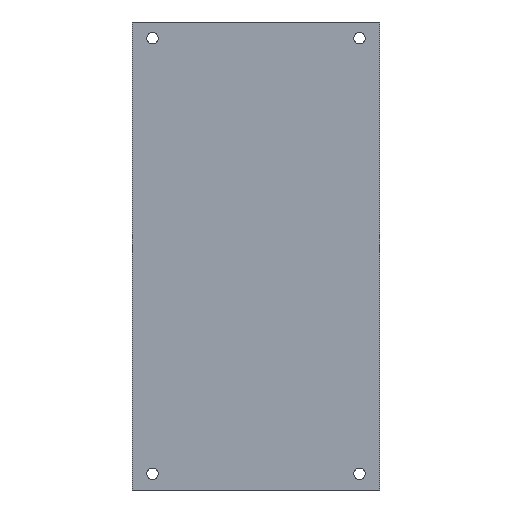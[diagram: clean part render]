
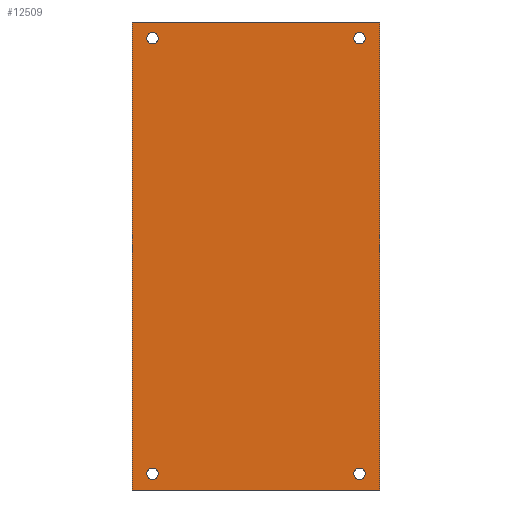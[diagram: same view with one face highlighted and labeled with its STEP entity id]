
A CAD part, front view. The second image highlights one B-rep face of the part: STEP entity #12509.
In plain terms, the highlighted planar face has unit normal (0, -1, 0).
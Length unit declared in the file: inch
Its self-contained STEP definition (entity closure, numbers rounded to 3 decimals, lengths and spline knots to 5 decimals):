
#456=LINE('',#18673,#1605);
#458=LINE('',#18677,#1607);
#461=LINE('',#18682,#1610);
#465=LINE('',#18712,#1614);
#1605=VECTOR('',#14924,0.3937);
#1607=VECTOR('',#14928,0.3937);
#1610=VECTOR('',#14933,0.3937);
#1614=VECTOR('',#14973,0.3937);
#2552=FACE_BOUND('',#3820,.T.);
#2553=FACE_BOUND('',#3821,.T.);
#2554=FACE_BOUND('',#3822,.T.);
#2555=FACE_BOUND('',#3823,.T.);
#3019=FACE_OUTER_BOUND('',#3819,.T.);
#3819=EDGE_LOOP('',(#8423,#8424,#8425,#8426));
#3820=EDGE_LOOP('',(#8427));
#3821=EDGE_LOOP('',(#8428));
#3822=EDGE_LOOP('',(#8429));
#3823=EDGE_LOOP('',(#8430));
#4782=CIRCLE('',#13328,0.08465);
#4784=CIRCLE('',#13331,0.08465);
#4786=CIRCLE('',#13334,0.08465);
#4788=CIRCLE('',#13337,0.08465);
#5422=VERTEX_POINT('',#18670);
#5423=VERTEX_POINT('',#18672);
#5424=VERTEX_POINT('',#18676);
#5425=VERTEX_POINT('',#18681);
#5426=VERTEX_POINT('',#18689);
#5428=VERTEX_POINT('',#18694);
#5430=VERTEX_POINT('',#18699);
#5432=VERTEX_POINT('',#18704);
#6596=EDGE_CURVE('',#5423,#5422,#456,.T.);
#6598=EDGE_CURVE('',#5424,#5423,#458,.T.);
#6601=EDGE_CURVE('',#5425,#5424,#461,.T.);
#6603=EDGE_CURVE('',#5426,#5426,#4782,.T.);
#6605=EDGE_CURVE('',#5428,#5428,#4784,.T.);
#6607=EDGE_CURVE('',#5430,#5430,#4786,.T.);
#6609=EDGE_CURVE('',#5432,#5432,#4788,.T.);
#6613=EDGE_CURVE('',#5422,#5425,#465,.T.);
#8423=ORIENTED_EDGE('',*,*,#6613,.T.);
#8424=ORIENTED_EDGE('',*,*,#6601,.T.);
#8425=ORIENTED_EDGE('',*,*,#6598,.T.);
#8426=ORIENTED_EDGE('',*,*,#6596,.T.);
#8427=ORIENTED_EDGE('',*,*,#6603,.T.);
#8428=ORIENTED_EDGE('',*,*,#6605,.T.);
#8429=ORIENTED_EDGE('',*,*,#6607,.T.);
#8430=ORIENTED_EDGE('',*,*,#6609,.T.);
#11317=PLANE('',#13341);
#12509=ADVANCED_FACE('',(#3019,#2552,#2553,#2554,#2555),#11317,.T.);
#13328=AXIS2_PLACEMENT_3D('',#18690,#14945,#14946);
#13331=AXIS2_PLACEMENT_3D('',#18695,#14951,#14952);
#13334=AXIS2_PLACEMENT_3D('',#18700,#14957,#14958);
#13337=AXIS2_PLACEMENT_3D('',#18705,#14963,#14964);
#13341=AXIS2_PLACEMENT_3D('',#18713,#14974,#14975);
#14924=DIRECTION('',(0.,0.,1.));
#14928=DIRECTION('',(1.,0.,0.));
#14933=DIRECTION('',(0.,0.,-1.));
#14945=DIRECTION('center_axis',(0.,1.,0.));
#14946=DIRECTION('ref_axis',(1.,0.,0.));
#14951=DIRECTION('center_axis',(0.,1.,0.));
#14952=DIRECTION('ref_axis',(1.,0.,0.));
#14957=DIRECTION('center_axis',(0.,1.,0.));
#14958=DIRECTION('ref_axis',(1.,0.,0.));
#14963=DIRECTION('center_axis',(0.,1.,0.));
#14964=DIRECTION('ref_axis',(1.,0.,0.));
#14973=DIRECTION('',(-1.,0.,0.));
#14974=DIRECTION('center_axis',(0.,-1.,0.));
#14975=DIRECTION('ref_axis',(0.,0.,-1.));
#18670=CARTESIAN_POINT('',(3.55596,-0.71851,1.87411));
#18672=CARTESIAN_POINT('',(3.55596,-0.71851,-4.97628));
#18673=CARTESIAN_POINT('',(3.55596,-0.71851,-4.97628));
#18676=CARTESIAN_POINT('',(-0.06609,-0.71851,-4.97628));
#18677=CARTESIAN_POINT('',(-0.06609,-0.71851,-4.97628));
#18681=CARTESIAN_POINT('',(-0.06609,-0.71851,1.87411));
#18682=CARTESIAN_POINT('',(-0.06609,-0.71851,1.87411));
#18689=CARTESIAN_POINT('',(3.17604,-0.71851,-4.74006));
#18690=CARTESIAN_POINT('Origin',(3.26068,-0.71851,-4.74006));
#18694=CARTESIAN_POINT('',(0.14454,-0.71851,1.63789));
#18695=CARTESIAN_POINT('Origin',(0.22919,-0.71851,1.63789));
#18699=CARTESIAN_POINT('',(0.14454,-0.71851,-4.74006));
#18700=CARTESIAN_POINT('Origin',(0.22919,-0.71851,-4.74006));
#18704=CARTESIAN_POINT('',(3.17604,-0.71851,1.63789));
#18705=CARTESIAN_POINT('Origin',(3.26068,-0.71851,1.63789));
#18712=CARTESIAN_POINT('',(3.55596,-0.71851,1.87411));
#18713=CARTESIAN_POINT('Origin',(1.74494,-0.71851,-1.55109));
